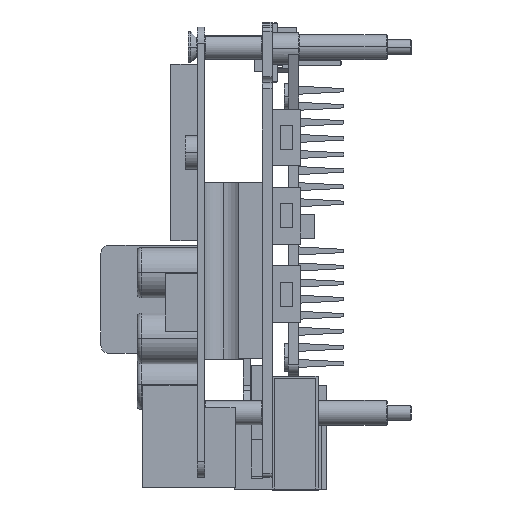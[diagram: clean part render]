
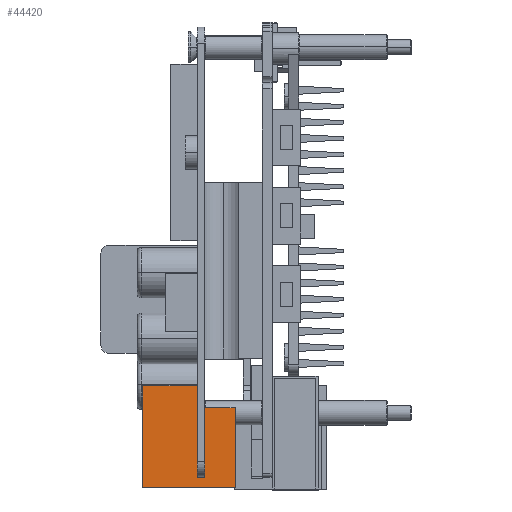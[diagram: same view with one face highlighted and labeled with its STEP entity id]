
A CAD part, left-side view. The second image highlights one B-rep face of the part: STEP entity #44420.
In plain terms, the highlighted planar face has unit normal (-1, 0, 0).
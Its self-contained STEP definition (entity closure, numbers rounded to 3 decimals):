
#61 = PLANE ( 'NONE',  #26802 ) ;
#298 = FACE_OUTER_BOUND ( 'NONE', #14007, .T. ) ;
#1032 = LINE ( 'NONE', #2349, #6210 ) ;
#1836 = VERTEX_POINT ( 'NONE', #16536 ) ;
#2349 = CARTESIAN_POINT ( 'NONE',  ( -104.4, -16.95, 0. ) ) ;
#2754 = EDGE_CURVE ( 'NONE', #41193, #4110, #61981, .T. ) ;
#4110 = VERTEX_POINT ( 'NONE', #12386 ) ;
#4364 = VECTOR ( 'NONE', #69036, 1000. ) ;
#6210 = VECTOR ( 'NONE', #57005, 1000. ) ;
#11299 = DIRECTION ( 'NONE',  ( 0., 0., -1. ) ) ;
#12386 = CARTESIAN_POINT ( 'NONE',  ( -104.4, -4.35, -6.8 ) ) ;
#12654 = CARTESIAN_POINT ( 'NONE',  ( -104.4, -7.05, 4.7 ) ) ;
#13276 = DIRECTION ( 'NONE',  ( 0., 0., 1. ) ) ;
#13572 = DIRECTION ( 'NONE',  ( 0., -1., 0. ) ) ;
#14007 = EDGE_LOOP ( 'NONE', ( #30664, #49997, #55423, #28572, #15632, #21805 ) ) ;
#15177 = DIRECTION ( 'NONE',  ( 0., 1., 0. ) ) ;
#15632 = ORIENTED_EDGE ( 'NONE', *, *, #58428, .F. ) ;
#16536 = CARTESIAN_POINT ( 'NONE',  ( -104.4, -16.95, 4.7 ) ) ;
#18899 = CARTESIAN_POINT ( 'NONE',  ( -104.4, -16.95, 4.7 ) ) ;
#21805 = ORIENTED_EDGE ( 'NONE', *, *, #2754, .F. ) ;
#22445 = VECTOR ( 'NONE', #13572, 1000. ) ;
#26802 = AXIS2_PLACEMENT_3D ( 'NONE', #38053, #26863, #11299 ) ;
#26863 = DIRECTION ( 'NONE',  ( 1., 0., 0. ) ) ;
#28572 = ORIENTED_EDGE ( 'NONE', *, *, #29562, .T. ) ;
#29562 = EDGE_CURVE ( 'NONE', #41792, #50054, #1032, .T. ) ;
#30664 = ORIENTED_EDGE ( 'NONE', *, *, #59993, .T. ) ;
#31760 = CARTESIAN_POINT ( 'NONE',  ( -104.4, -16.95, -6.8 ) ) ;
#37251 = VECTOR ( 'NONE', #13276, 1000. ) ;
#38053 = CARTESIAN_POINT ( 'NONE',  ( -104.4, -16.95, -6.8 ) ) ;
#39419 = DIRECTION ( 'NONE',  ( 0., 0., -1. ) ) ;
#41193 = VERTEX_POINT ( 'NONE', #31760 ) ;
#41452 = CARTESIAN_POINT ( 'NONE',  ( -104.4, -16.95, -6.8 ) ) ;
#41792 = VERTEX_POINT ( 'NONE', #70044 ) ;
#44420 = ADVANCED_FACE ( 'NONE', ( #298 ), #61, .F. ) ;
#45465 = CARTESIAN_POINT ( 'NONE',  ( -104.4, -4.35, -6.8 ) ) ;
#46287 = LINE ( 'NONE', #18899, #22445 ) ;
#47185 = CARTESIAN_POINT ( 'NONE',  ( -104.4, -4.35, 0. ) ) ;
#47863 = CARTESIAN_POINT ( 'NONE',  ( -104.4, -16.95, -6.8 ) ) ;
#49678 = LINE ( 'NONE', #41452, #4364 ) ;
#49997 = ORIENTED_EDGE ( 'NONE', *, *, #63008, .F. ) ;
#50008 = LINE ( 'NONE', #45465, #37251 ) ;
#50054 = VERTEX_POINT ( 'NONE', #47185 ) ;
#55423 = ORIENTED_EDGE ( 'NONE', *, *, #63819, .T. ) ;
#57005 = DIRECTION ( 'NONE',  ( 0., 1., 0. ) ) ;
#58139 = VERTEX_POINT ( 'NONE', #64576 ) ;
#58428 = EDGE_CURVE ( 'NONE', #4110, #50054, #50008, .T. ) ;
#59383 = VECTOR ( 'NONE', #15177, 1000. ) ;
#59993 = EDGE_CURVE ( 'NONE', #41193, #1836, #49678, .T. ) ;
#61411 = LINE ( 'NONE', #12654, #68164 ) ;
#61981 = LINE ( 'NONE', #47863, #59383 ) ;
#63008 = EDGE_CURVE ( 'NONE', #58139, #1836, #46287, .T. ) ;
#63819 = EDGE_CURVE ( 'NONE', #58139, #41792, #61411, .T. ) ;
#64576 = CARTESIAN_POINT ( 'NONE',  ( -104.4, -7.05, 4.7 ) ) ;
#68164 = VECTOR ( 'NONE', #39419, 1000. ) ;
#69036 = DIRECTION ( 'NONE',  ( 0., 0., 1. ) ) ;
#70044 = CARTESIAN_POINT ( 'NONE',  ( -104.4, -7.05, 0. ) ) ;
